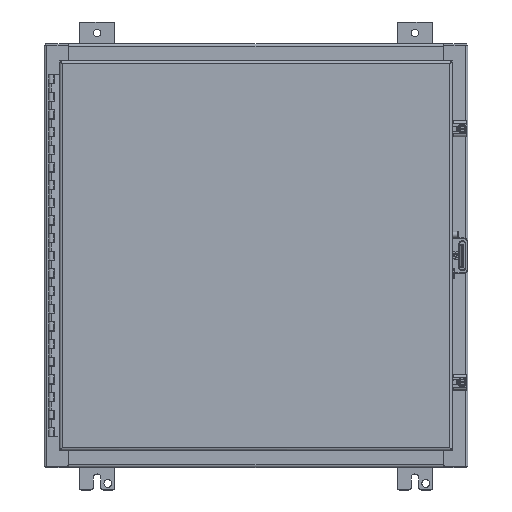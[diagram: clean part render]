
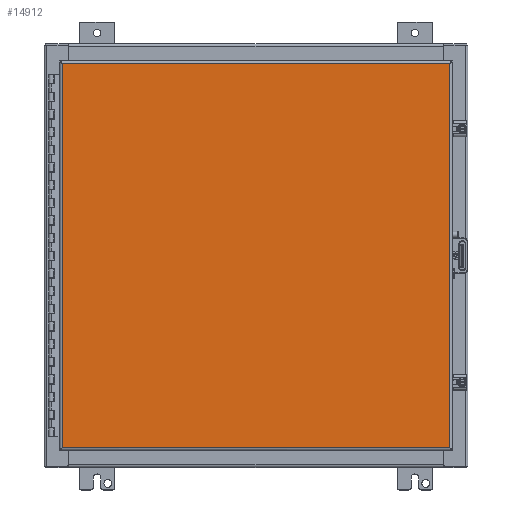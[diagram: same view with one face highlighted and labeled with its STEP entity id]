
A CAD part, top view. The second image highlights one B-rep face of the part: STEP entity #14912.
In plain terms, the highlighted planar face has unit normal (0, 0, 1) as drawn and (0, 1, 0) by its records, which use the part's own axes.
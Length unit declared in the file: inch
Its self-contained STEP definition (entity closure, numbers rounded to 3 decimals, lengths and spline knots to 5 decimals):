
#13419=DIRECTION('',(0.,0.,1.));
#13420=VECTOR('',#13419,21.96);
#13421=CARTESIAN_POINT('',(-10.88638,0.,0.145));
#13422=LINE('',#13421,#13420);
#13473=DIRECTION('',(0.,0.,1.));
#13474=VECTOR('',#13473,21.96);
#13475=CARTESIAN_POINT('',(10.88638,0.,0.145));
#13476=LINE('',#13475,#13474);
#13583=DIRECTION('',(-1.,0.,0.));
#13584=VECTOR('',#13583,21.77275);
#13585=CARTESIAN_POINT('',(10.88638,0.,0.145));
#13586=LINE('',#13585,#13584);
#14091=DIRECTION('',(-1.,0.,0.));
#14092=VECTOR('',#14091,21.77275);
#14093=CARTESIAN_POINT('',(10.88638,0.,22.105));
#14094=LINE('',#14093,#14092);
#14319=CARTESIAN_POINT('',(10.88638,0.,0.145));
#14320=CARTESIAN_POINT('',(-10.88638,0.,0.145));
#14321=VERTEX_POINT('',#14319);
#14322=VERTEX_POINT('',#14320);
#14323=CARTESIAN_POINT('',(10.88638,0.,22.105));
#14324=CARTESIAN_POINT('',(-10.88638,0.,22.105));
#14325=VERTEX_POINT('',#14323);
#14326=VERTEX_POINT('',#14324);
#14898=CARTESIAN_POINT('',(11.03138,0.,0.));
#14899=DIRECTION('',(0.,1.,0.));
#14900=DIRECTION('',(-1.,0.,0.));
#14901=AXIS2_PLACEMENT_3D('',#14898,#14899,#14900);
#14902=PLANE('',#14901);
#14904=ORIENTED_EDGE('',*,*,#14903,.T.);
#14906=ORIENTED_EDGE('',*,*,#14905,.T.);
#14907=ORIENTED_EDGE('',*,*,#14888,.F.);
#14909=ORIENTED_EDGE('',*,*,#14908,.F.);
#14910=EDGE_LOOP('',(#14904,#14906,#14907,#14909));
#14911=FACE_OUTER_BOUND('',#14910,.F.);
#14888=EDGE_CURVE('',#14322,#14326,#13422,.T.);
#14903=EDGE_CURVE('',#14321,#14325,#13476,.T.);
#14905=EDGE_CURVE('',#14325,#14326,#14094,.T.);
#14908=EDGE_CURVE('',#14321,#14322,#13586,.T.);
#14912=ADVANCED_FACE('',(#14911),#14902,.T.);
